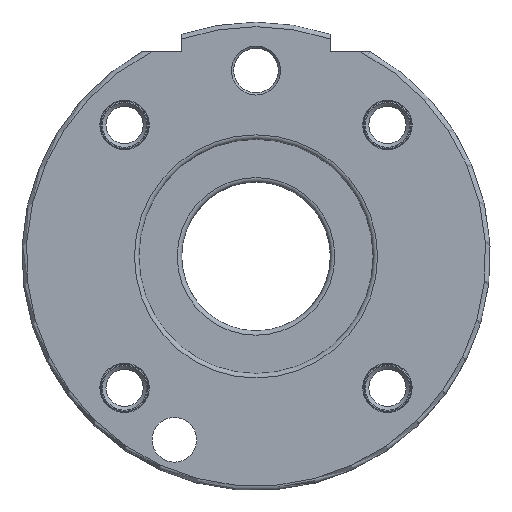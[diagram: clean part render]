
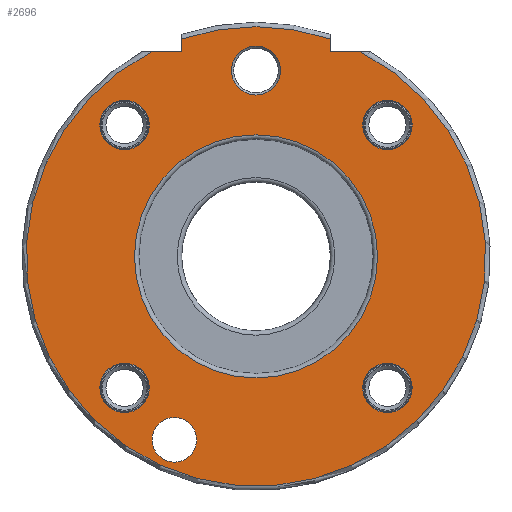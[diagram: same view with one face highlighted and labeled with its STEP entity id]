
A CAD part, front view. The second image highlights one B-rep face of the part: STEP entity #2696.
In plain terms, the highlighted planar face has unit normal (0, -1, 0).
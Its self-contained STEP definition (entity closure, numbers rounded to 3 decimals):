
#114=LINE('',#4159,#270);
#115=LINE('',#4161,#271);
#116=LINE('',#4165,#272);
#117=LINE('',#4166,#273);
#270=VECTOR('',#3247,10.);
#271=VECTOR('',#3248,10.);
#272=VECTOR('',#3251,10.);
#273=VECTOR('',#3252,10.);
#503=FACE_BOUND('',#704,.T.);
#504=FACE_BOUND('',#705,.T.);
#505=FACE_BOUND('',#706,.T.);
#506=FACE_BOUND('',#707,.T.);
#507=FACE_BOUND('',#708,.T.);
#508=FACE_BOUND('',#709,.T.);
#509=FACE_BOUND('',#710,.T.);
#545=FACE_OUTER_BOUND('',#703,.T.);
#703=EDGE_LOOP('',(#1735,#1736,#1737,#1738,#1739,#1740));
#704=EDGE_LOOP('',(#1741));
#705=EDGE_LOOP('',(#1742));
#706=EDGE_LOOP('',(#1743));
#707=EDGE_LOOP('',(#1744));
#708=EDGE_LOOP('',(#1745));
#709=EDGE_LOOP('',(#1746));
#710=EDGE_LOOP('',(#1747));
#888=CIRCLE('',#2890,16.35);
#892=CIRCLE('',#2895,30.9);
#893=CIRCLE('',#2896,30.9);
#894=CIRCLE('',#2897,3.3);
#895=CIRCLE('',#2898,3.);
#896=CIRCLE('',#2899,3.324);
#897=CIRCLE('',#2900,3.324);
#898=CIRCLE('',#2901,3.324);
#899=CIRCLE('',#2902,3.324);
#1052=VERTEX_POINT('',#4147);
#1055=VERTEX_POINT('',#4155);
#1056=VERTEX_POINT('',#4156);
#1057=VERTEX_POINT('',#4158);
#1058=VERTEX_POINT('',#4160);
#1059=VERTEX_POINT('',#4162);
#1060=VERTEX_POINT('',#4164);
#1061=VERTEX_POINT('',#4167);
#1062=VERTEX_POINT('',#4169);
#1063=VERTEX_POINT('',#4171);
#1064=VERTEX_POINT('',#4173);
#1065=VERTEX_POINT('',#4175);
#1066=VERTEX_POINT('',#4177);
#1321=EDGE_CURVE('',#1052,#1052,#888,.T.);
#1325=EDGE_CURVE('',#1055,#1056,#892,.T.);
#1326=EDGE_CURVE('',#1055,#1057,#114,.T.);
#1327=EDGE_CURVE('',#1057,#1058,#115,.T.);
#1328=EDGE_CURVE('',#1059,#1058,#893,.T.);
#1329=EDGE_CURVE('',#1059,#1060,#116,.T.);
#1330=EDGE_CURVE('',#1060,#1056,#117,.T.);
#1331=EDGE_CURVE('',#1061,#1061,#894,.T.);
#1332=EDGE_CURVE('',#1062,#1062,#895,.T.);
#1333=EDGE_CURVE('',#1063,#1063,#896,.T.);
#1334=EDGE_CURVE('',#1064,#1064,#897,.T.);
#1335=EDGE_CURVE('',#1065,#1065,#898,.T.);
#1336=EDGE_CURVE('',#1066,#1066,#899,.T.);
#1735=ORIENTED_EDGE('',*,*,#1325,.F.);
#1736=ORIENTED_EDGE('',*,*,#1326,.T.);
#1737=ORIENTED_EDGE('',*,*,#1327,.T.);
#1738=ORIENTED_EDGE('',*,*,#1328,.F.);
#1739=ORIENTED_EDGE('',*,*,#1329,.T.);
#1740=ORIENTED_EDGE('',*,*,#1330,.T.);
#1741=ORIENTED_EDGE('',*,*,#1331,.F.);
#1742=ORIENTED_EDGE('',*,*,#1332,.T.);
#1743=ORIENTED_EDGE('',*,*,#1333,.T.);
#1744=ORIENTED_EDGE('',*,*,#1334,.T.);
#1745=ORIENTED_EDGE('',*,*,#1335,.T.);
#1746=ORIENTED_EDGE('',*,*,#1336,.T.);
#1747=ORIENTED_EDGE('',*,*,#1321,.F.);
#2464=PLANE('',#2894);
#2696=ADVANCED_FACE('',(#545,#503,#504,#505,#506,#507,#508,#509),#2464,
 .T.);
#2890=AXIS2_PLACEMENT_3D('',#4148,#3235,#3236);
#2894=AXIS2_PLACEMENT_3D('',#4154,#3243,#3244);
#2895=AXIS2_PLACEMENT_3D('',#4157,#3245,#3246);
#2896=AXIS2_PLACEMENT_3D('',#4163,#3249,#3250);
#2897=AXIS2_PLACEMENT_3D('',#4168,#3253,#3254);
#2898=AXIS2_PLACEMENT_3D('',#4170,#3255,#3256);
#2899=AXIS2_PLACEMENT_3D('',#4172,#3257,#3258);
#2900=AXIS2_PLACEMENT_3D('',#4174,#3259,#3260);
#2901=AXIS2_PLACEMENT_3D('',#4176,#3261,#3262);
#2902=AXIS2_PLACEMENT_3D('',#4178,#3263,#3264);
#3235=DIRECTION('center_axis',(0.,-1.,0.));
#3236=DIRECTION('ref_axis',(1.,0.,0.));
#3243=DIRECTION('center_axis',(0.,-1.,0.));
#3244=DIRECTION('ref_axis',(0.,0.,-1.));
#3245=DIRECTION('center_axis',(0.,1.,0.));
#3246=DIRECTION('ref_axis',(0.,0.,1.));
#3247=DIRECTION('',(0.,0.,-1.));
#3248=DIRECTION('',(-1.,0.,0.));
#3249=DIRECTION('center_axis',(0.,1.,0.));
#3250=DIRECTION('ref_axis',(0.,0.,-1.));
#3251=DIRECTION('',(-1.,0.,0.));
#3252=DIRECTION('',(0.,0.,1.));
#3253=DIRECTION('center_axis',(0.,-1.,0.));
#3254=DIRECTION('ref_axis',(-1.,0.,0.));
#3255=DIRECTION('center_axis',(0.,1.,0.));
#3256=DIRECTION('ref_axis',(1.,0.,0.));
#3257=DIRECTION('center_axis',(0.,1.,0.));
#3258=DIRECTION('ref_axis',(1.,0.,0.));
#3259=DIRECTION('center_axis',(0.,1.,0.));
#3260=DIRECTION('ref_axis',(1.,0.,0.));
#3261=DIRECTION('center_axis',(0.,1.,0.));
#3262=DIRECTION('ref_axis',(1.,0.,0.));
#3263=DIRECTION('center_axis',(0.,1.,0.));
#3264=DIRECTION('ref_axis',(1.,0.,0.));
#4147=CARTESIAN_POINT('',(0.,0.,-16.35));
#4148=CARTESIAN_POINT('Origin',(0.,0.,0.));
#4154=CARTESIAN_POINT('Origin',(-23.625,0.,0.));
#4155=CARTESIAN_POINT('',(-10.,0.,29.237));
#4156=CARTESIAN_POINT('',(10.,0.,29.237));
#4157=CARTESIAN_POINT('Origin',(0.,0.,0.));
#4158=CARTESIAN_POINT('',(-10.,0.,27.5));
#4159=CARTESIAN_POINT('',(-10.,0.,15.75));
#4160=CARTESIAN_POINT('',(-14.091,0.,27.5));
#4161=CARTESIAN_POINT('',(-21.813,0.,27.5));
#4162=CARTESIAN_POINT('',(14.091,0.,27.5));
#4163=CARTESIAN_POINT('Origin',(0.,0.,0.));
#4164=CARTESIAN_POINT('',(10.,0.,27.5));
#4165=CARTESIAN_POINT('',(-1.813,0.,27.5));
#4166=CARTESIAN_POINT('',(10.,0.,15.75));
#4167=CARTESIAN_POINT('',(3.3,0.,25.));
#4168=CARTESIAN_POINT('Origin',(0.,0.,
25.));
#4169=CARTESIAN_POINT('',(-13.982,0.,-24.666));
#4170=CARTESIAN_POINT('Origin',(-10.982,0.,
-24.666));
#4171=CARTESIAN_POINT('',(14.354,0.,17.678));
#4172=CARTESIAN_POINT('Origin',(17.678,0.,
17.678));
#4173=CARTESIAN_POINT('',(-21.001,0.,17.678));
#4174=CARTESIAN_POINT('Origin',(-17.678,0.,
17.678));
#4175=CARTESIAN_POINT('',(-21.001,0.,-17.678));
#4176=CARTESIAN_POINT('Origin',(-17.678,0.,
-17.678));
#4177=CARTESIAN_POINT('',(14.354,0.,-17.678));
#4178=CARTESIAN_POINT('Origin',(17.678,0.,
-17.678));
